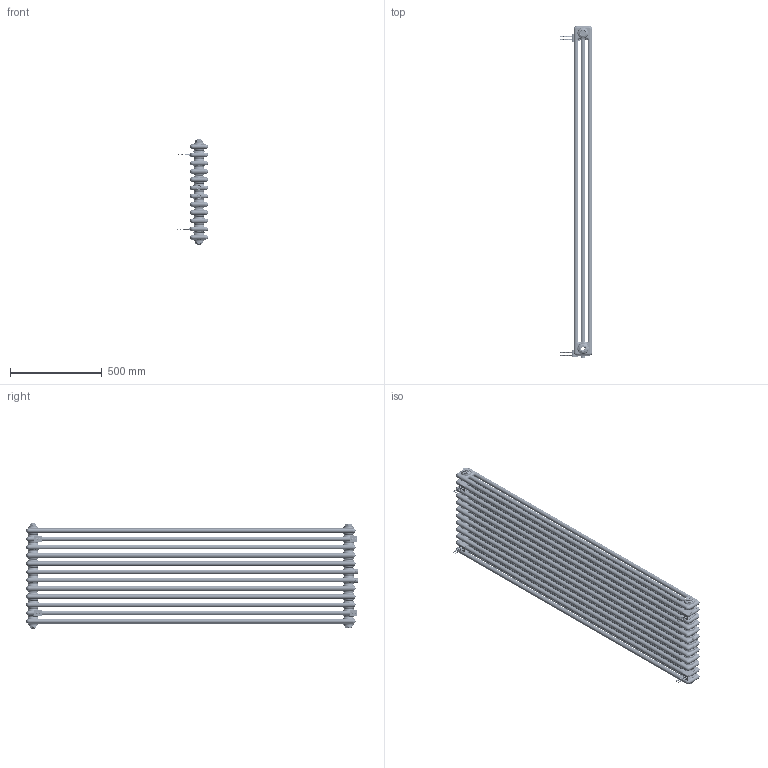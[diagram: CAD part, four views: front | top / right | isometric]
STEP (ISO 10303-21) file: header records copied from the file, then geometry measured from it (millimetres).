
FILE_DESCRIPTION(/* description */ (''),/* implementation_level */ '2;1');
FILE_NAME(/* name */ 'CL03 1800x560',/* time_stamp */ '2023-09-09T16:46:03+08:00',/* author */ (''),/* organization */ (''),/* preprocessor_version */ 'ST-DEVELOPER v9',/* originating_system */ 'UGS - NX 4.0',/* authorisation */ '');
FILE_SCHEMA (('CONFIG_CONTROL_DESIGN'));
Length unit declared in the file: millimetre
Products named in the file (1): AdmiF21Fp090
Bounding box: 176.1 x 1813 x 574 mm (x, y, z)
Volume: 5994579.9 mm3; surface area: 9873482 mm2
Topology: 45 solids, 45 shells, 4643 faces, 11145 edges, 6589 vertices
Faces by surface type: bspline 1363, cylinder 1257, plane 904, torus 692, cone 427
Full cylindrical faces by diameter (mm): 25 x2
Entity records: 277686 total; most frequent: CARTESIAN_POINT 180568, ORIENTED_EDGE 22258, DIRECTION 17721, EDGE_CURVE 11129, AXIS2_PLACEMENT_3D 7487, VERTEX_POINT 6591, EDGE_LOOP 4876, ADVANCED_FACE 4643
